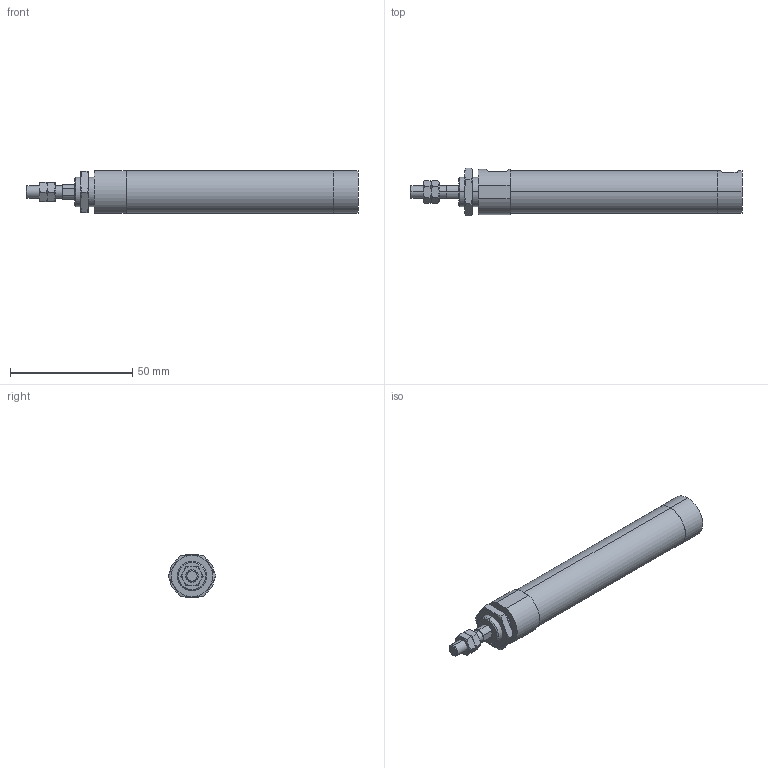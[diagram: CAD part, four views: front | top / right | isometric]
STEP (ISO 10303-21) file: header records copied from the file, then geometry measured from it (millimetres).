
FILE_DESCRIPTION (( 'STEP AP203' ), '1' );
FILE_NAME ('ZGU2-16-60-N.STEP', '2016-03-31T01:02:09', ( '' ), ( '' ), 'SwSTEP 2.0', 'SolidWorks 2014', '' );
FILE_SCHEMA (( 'CONFIG_CONTROL_DESIGN' ));
Length unit declared in the file: millimetre
Products named in the file (4): ZGU2-16-60-N; ZGU2-16-60
Assembly tree (4 placements, depth 2):
  ZGU2-16-60-N
    ZGU2-16-60
    (unnamed)  x2
    (unnamed)
Bounding box: 136 x 19.63 x 17.6 mm (x, y, z)
Volume: 27859.3 mm3; surface area: 8326 mm2
Topology: 4 solids, 4 shells, 108 faces, 235 edges, 140 vertices
Faces by surface type: plane 41, torus 36, cylinder 23, cone 8
Entity records: 3055 total; most frequent: CARTESIAN_POINT 800, DIRECTION 387, ORIENTED_EDGE 366, EDGE_CURVE 183, AXIS2_PLACEMENT_3D 163, VERTEX_POINT 112, EDGE_LOOP 99, FACE_OUTER_BOUND 86
